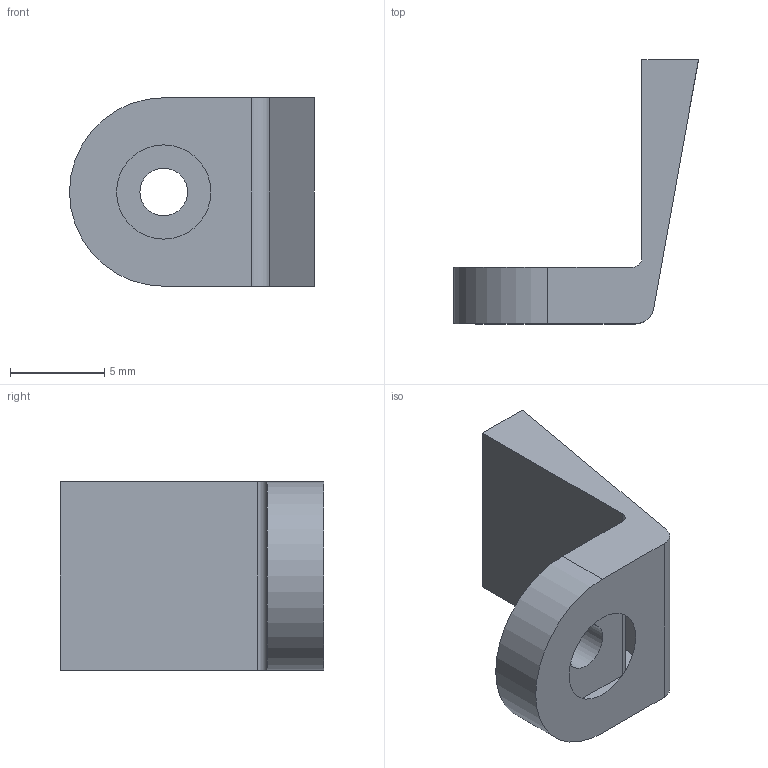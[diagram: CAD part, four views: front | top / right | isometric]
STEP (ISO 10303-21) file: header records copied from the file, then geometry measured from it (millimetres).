
FILE_DESCRIPTION(/* description */ (''),/* implementation_level */ '2;1');
FILE_NAME(/* name */ 'Wireless Charger Mount.step',/* time_stamp */ '2024-02-05T17:42:44+01:00',/* author */ (''),/* organization */ (''),/* preprocessor_version */ 'ST-DEVELOPER v20',/* originating_system */ 'Autodesk Translation Framework v12.14.0.127',/* authorisation */ '');
FILE_SCHEMA (('AUTOMOTIVE_DESIGN { 1 0 10303 214 3 1 1 }'));
Length unit declared in the file: millimetre
Products named in the file (1): Wireless Charger Mount
Bounding box: 13 x 14 x 10 mm (x, y, z)
Volume: 487.1 mm3; surface area: 596.2 mm2
Topology: 1 solids, 1 shells, 12 faces, 29 edges, 19 vertices
Faces by surface type: plane 7, cylinder 4, cone 1
Full cylindrical faces by diameter (mm): 2.529 x1
Entity records: 391 total; most frequent: DIRECTION 64, CARTESIAN_POINT 61, ORIENTED_EDGE 58, EDGE_CURVE 29, AXIS2_PLACEMENT_3D 22, LINE 20, VECTOR 20, VERTEX_POINT 19
